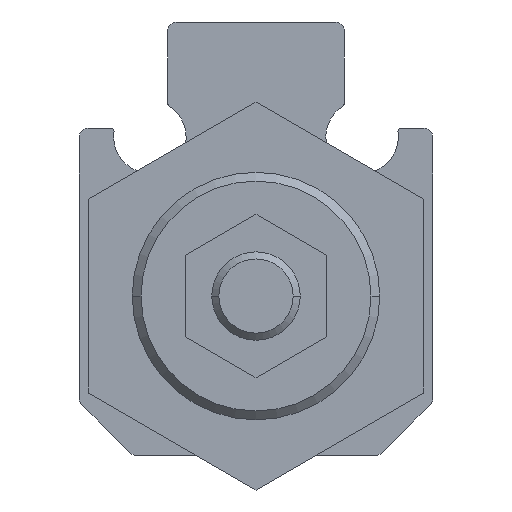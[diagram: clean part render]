
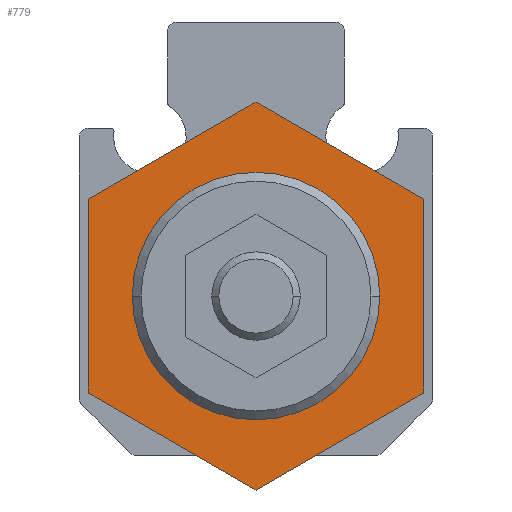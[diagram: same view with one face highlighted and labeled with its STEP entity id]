
A CAD part, front view. The second image highlights one B-rep face of the part: STEP entity #779.
In plain terms, the highlighted planar face has unit normal (0, -1, 0).
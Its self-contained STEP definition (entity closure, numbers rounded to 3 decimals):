
#213=CARTESIAN_POINT('',(-7.,-63.5,9.0));
#214=VERTEX_POINT('',#213);
#223=CARTESIAN_POINT('',(7.,-63.5,9.));
#224=VERTEX_POINT('',#223);
#225=CARTESIAN_POINT('',(0.0,-63.5,9.0));
#226=DIRECTION('',(0.0,-1.0,0.0));
#227=DIRECTION('',(-1.0,0.0,0.0));
#228=AXIS2_PLACEMENT_3D('',#225,#226,#227);
#229=CIRCLE('',#228,7.);
#230=EDGE_CURVE('',#214,#224,#229,.T.);
#714=CARTESIAN_POINT('',(0.,-63.5,9.0));
#715=DIRECTION('',(0.0,1.0,0.0));
#716=DIRECTION('',(0.0,0.0,1.0));
#717=AXIS2_PLACEMENT_3D('',#714,#715,#716);
#718=PLANE('',#717);
#719=CARTESIAN_POINT('',(0.,-63.5,19.97));
#720=VERTEX_POINT('',#719);
#721=CARTESIAN_POINT('',(9.5,-63.5,14.485));
#722=VERTEX_POINT('',#721);
#723=CARTESIAN_POINT('',(0.,-63.5,19.97));
#724=DIRECTION('',(0.866,0.0,-0.5));
#725=VECTOR('',#724,10.97);
#726=LINE('',#723,#725);
#727=EDGE_CURVE('',#720,#722,#726,.T.);
#728=ORIENTED_EDGE('',*,*,#727,.F.);
#729=CARTESIAN_POINT('',(-9.5,-63.5,14.485));
#730=VERTEX_POINT('',#729);
#731=CARTESIAN_POINT('',(-9.5,-63.5,14.485));
#732=DIRECTION('',(0.866,0.0,0.5));
#733=VECTOR('',#732,10.97);
#734=LINE('',#731,#733);
#735=EDGE_CURVE('',#730,#720,#734,.T.);
#736=ORIENTED_EDGE('',*,*,#735,.F.);
#737=CARTESIAN_POINT('',(-9.5,-63.5,3.515));
#738=VERTEX_POINT('',#737);
#739=CARTESIAN_POINT('',(-9.5,-63.5,3.515));
#740=DIRECTION('',(0.0,0.0,1.0));
#741=VECTOR('',#740,10.97);
#742=LINE('',#739,#741);
#743=EDGE_CURVE('',#738,#730,#742,.T.);
#744=ORIENTED_EDGE('',*,*,#743,.F.);
#745=CARTESIAN_POINT('',(0.,-63.5,-1.97));
#746=VERTEX_POINT('',#745);
#747=CARTESIAN_POINT('',(0.,-63.5,-1.97));
#748=DIRECTION('',(-0.866,0.0,0.5));
#749=VECTOR('',#748,10.97);
#750=LINE('',#747,#749);
#751=EDGE_CURVE('',#746,#738,#750,.T.);
#752=ORIENTED_EDGE('',*,*,#751,.F.);
#753=CARTESIAN_POINT('',(9.5,-63.5,3.515));
#754=VERTEX_POINT('',#753);
#755=CARTESIAN_POINT('',(9.5,-63.5,3.515));
#756=DIRECTION('',(-0.866,0.0,-0.5));
#757=VECTOR('',#756,10.97);
#758=LINE('',#755,#757);
#759=EDGE_CURVE('',#754,#746,#758,.T.);
#760=ORIENTED_EDGE('',*,*,#759,.F.);
#761=CARTESIAN_POINT('',(9.5,-63.5,14.485));
#762=DIRECTION('',(0.0,0.0,-1.0));
#763=VECTOR('',#762,10.97);
#764=LINE('',#761,#763);
#765=EDGE_CURVE('',#722,#754,#764,.T.);
#766=ORIENTED_EDGE('',*,*,#765,.F.);
#767=EDGE_LOOP('',(#728,#736,#744,#752,#760,#766));
#768=FACE_OUTER_BOUND('',#767,.T.);
#769=CARTESIAN_POINT('',(0.0,-63.5,9.0));
#770=DIRECTION('',(0.0,-1.0,0.0));
#771=DIRECTION('',(-1.0,0.0,0.0));
#772=AXIS2_PLACEMENT_3D('',#769,#770,#771);
#773=CIRCLE('',#772,7.);
#774=EDGE_CURVE('',#224,#214,#773,.T.);
#775=ORIENTED_EDGE('',*,*,#774,.F.);
#776=ORIENTED_EDGE('',*,*,#230,.F.);
#777=EDGE_LOOP('',(#775,#776));
#778=FACE_BOUND('',#777,.T.);
#779=ADVANCED_FACE('',(#768,#778),#718,.F.);
